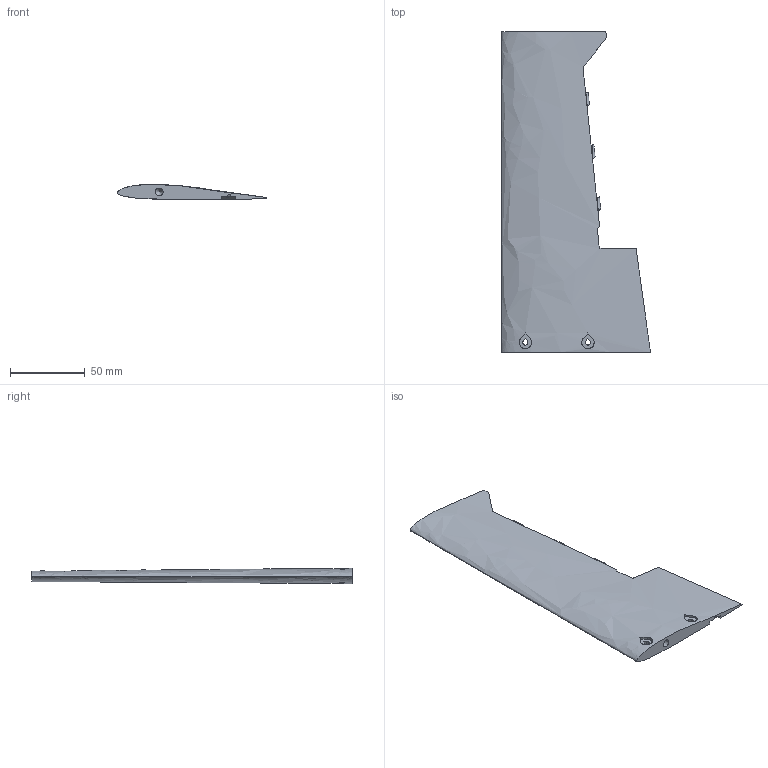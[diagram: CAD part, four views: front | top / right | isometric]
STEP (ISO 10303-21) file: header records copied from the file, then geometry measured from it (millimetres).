
FILE_DESCRIPTION(('SkyG Speed 90B - revision C6B-15 - 2026-10-12','WR-wing-right'),'2;1');
FILE_NAME('WR-wing-right_C6B-15','2026-10-12T17:13:40',('Author'),( 'Open CASCADE'),'Open CASCADE STEP processor 7.9','Open CASCADE 7.9' ,'Unknown');
FILE_SCHEMA(('AUTOMOTIVE_DESIGN { 1 0 10303 214 1 1 1 1 }'));
Length unit declared in the file: millimetre
Products named in the file (1): WR-wing-right C6B-15
Bounding box: 99.95 x 215 x 10.14 mm (x, y, z)
Volume: 94771.5 mm3; surface area: 35761.2 mm2
Topology: 1 solids, 1 shells, 102 faces, 315 edges, 216 vertices
Faces by surface type: plane 83, cylinder 14, bspline 3, cone 2
Full cylindrical faces by diameter (mm): 1.6 x4, 2.2 x1, 5.2 x1
Entity records: 14801 total; most frequent: CARTESIAN_POINT 9208, DIRECTION 842, ORIENTED_EDGE 630, PCURVE 630, DEFINITIONAL_REPRESENTATION 630, B_SPLINE_CURVE_WITH_KNOTS 393, LINE 344, VECTOR 344
